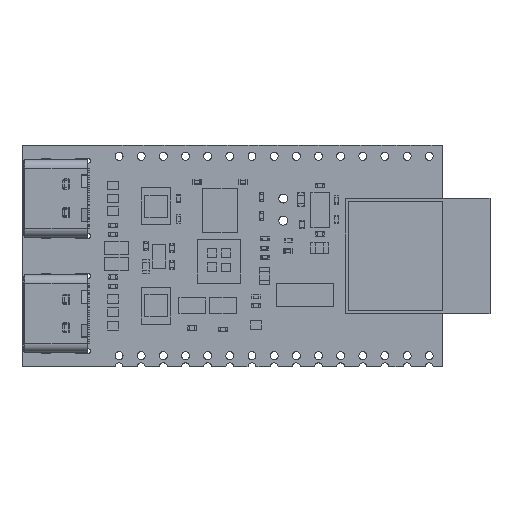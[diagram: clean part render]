
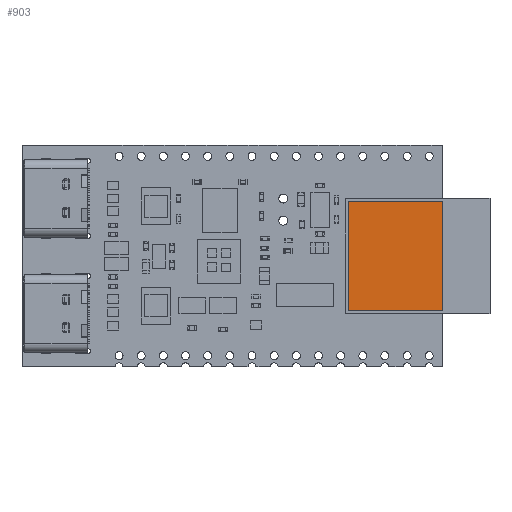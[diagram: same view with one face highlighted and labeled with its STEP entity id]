
A CAD part, top view. The second image highlights one B-rep face of the part: STEP entity #903.
In plain terms, the highlighted planar face has unit normal (0, 0, 1).
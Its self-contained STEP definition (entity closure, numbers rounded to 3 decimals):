
#774 = VERTEX_POINT('',#775);
#775 = CARTESIAN_POINT('',(72.594,-21.554,1.5));
#781 = EDGE_CURVE('',#774,#782,#784,.T.);
#782 = VERTEX_POINT('',#783);
#783 = CARTESIAN_POINT('',(83.444,-21.554,1.5));
#784 = LINE('',#785,#786);
#785 = CARTESIAN_POINT('',(72.594,-21.554,1.5));
#786 = VECTOR('',#787,1.);
#787 = DIRECTION('',(1.,0.,0.));
#812 = EDGE_CURVE('',#782,#813,#815,.T.);
#813 = VERTEX_POINT('',#814);
#814 = CARTESIAN_POINT('',(83.444,-34.091,1.5));
#815 = LINE('',#816,#817);
#816 = CARTESIAN_POINT('',(83.444,-21.554,1.5));
#817 = VECTOR('',#818,1.);
#818 = DIRECTION('',(0.,-1.,0.));
#843 = EDGE_CURVE('',#813,#844,#846,.T.);
#844 = VERTEX_POINT('',#845);
#845 = CARTESIAN_POINT('',(72.594,-34.083,1.5));
#846 = LINE('',#847,#848);
#847 = CARTESIAN_POINT('',(83.444,-34.091,1.5));
#848 = VECTOR('',#849,1.);
#849 = DIRECTION('',(-1.,0.001,0.));
#874 = EDGE_CURVE('',#844,#774,#875,.T.);
#875 = LINE('',#876,#877);
#876 = CARTESIAN_POINT('',(72.594,-34.083,1.5));
#877 = VECTOR('',#878,1.);
#878 = DIRECTION('',(0.,1.,0.));
#903 = ADVANCED_FACE('',(#904),#910,.T.);
#904 = FACE_BOUND('',#905,.F.);
#905 = EDGE_LOOP('',(#906,#907,#908,#909));
#906 = ORIENTED_EDGE('',*,*,#781,.T.);
#907 = ORIENTED_EDGE('',*,*,#812,.T.);
#908 = ORIENTED_EDGE('',*,*,#843,.T.);
#909 = ORIENTED_EDGE('',*,*,#874,.T.);
#910 = PLANE('',#911);
#911 = AXIS2_PLACEMENT_3D('',#912,#913,#914);
#912 = CARTESIAN_POINT('',(72.594,-21.554,1.5));
#913 = DIRECTION('',(0.,0.,1.));
#914 = DIRECTION('',(1.,0.,0.));
